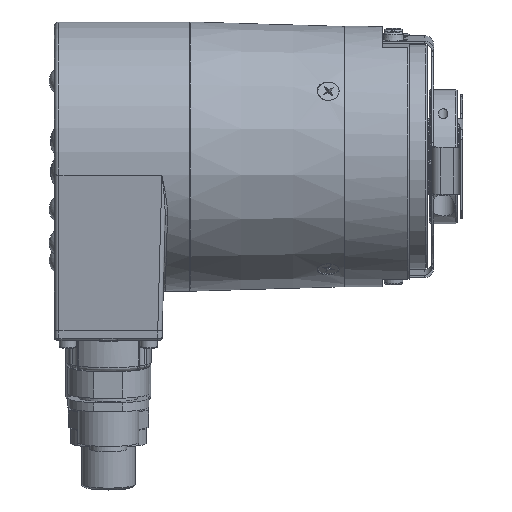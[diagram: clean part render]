
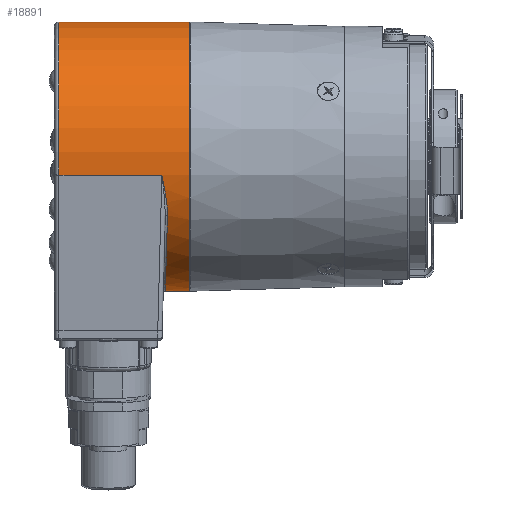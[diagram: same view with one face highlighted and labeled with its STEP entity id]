
A CAD part, top view. The second image highlights one B-rep face of the part: STEP entity #18891.
In plain terms, the highlighted cylindrical face has radius 30 mm (diameter 60 mm), a full revolution.
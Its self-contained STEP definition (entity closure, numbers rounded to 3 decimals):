
#869 = CIRCLE ( 'NONE', #8820, 30. ) ;
#1494 = DIRECTION ( 'NONE',  ( -1., 0., 0. ) ) ;
#1902 =( BOUNDED_CURVE ( )  B_SPLINE_CURVE ( 3, ( #39466, #69482, #63655, #27640 ),
 .UNSPECIFIED., .F., .F. ) 
 B_SPLINE_CURVE_WITH_KNOTS ( ( 4, 4 ),
 ( 5.027, 7.539 ),
 .UNSPECIFIED. ) 
 CURVE ( )  GEOMETRIC_REPRESENTATION_ITEM ( )  RATIONAL_B_SPLINE_CURVE ( ( 1., 0.54, 0.54, 1. ) ) 
 REPRESENTATION_ITEM ( '' )  );
#2298 = EDGE_CURVE ( 'NONE', #26756, #27496, #33368, .T. ) ;
#2488 = ORIENTED_EDGE ( 'NONE', *, *, #2298, .F. ) ;
#5395 = VERTEX_POINT ( 'NONE', #15185 ) ;
#5492 = CARTESIAN_POINT ( 'NONE',  ( -32.48, -7.241, 29.124 ) ) ;
#5623 = AXIS2_PLACEMENT_3D ( 'NONE', #73623, #1494, #37310 ) ;
#6596 = CARTESIAN_POINT ( 'NONE',  ( -31.831, -5.232, -29.54 ) ) ;
#6799 = EDGE_CURVE ( 'NONE', #78070, #27496, #38033, .T. ) ;
#8820 = AXIS2_PLACEMENT_3D ( 'NONE', #10168, #52285, #16221 ) ;
#10168 = CARTESIAN_POINT ( 'NONE',  ( -27., 0., 0. ) ) ;
#11576 = CARTESIAN_POINT ( 'NONE',  ( -32.098, -9.498, 28.468 ) ) ;
#12536 = LINE ( 'NONE', #70319, #44516 ) ;
#12654 = CARTESIAN_POINT ( 'NONE',  ( -31.851, -3.656, -29.787 ) ) ;
#15185 = CARTESIAN_POINT ( 'NONE',  ( -27., -29.708, -4.175 ) ) ;
#15512 = DIRECTION ( 'NONE',  ( -1., 0., 0. ) ) ;
#15622 = ORIENTED_EDGE ( 'NONE', *, *, #75306, .T. ) ;
#16221 = DIRECTION ( 'NONE',  ( 0., -0.99, -0.139 ) ) ;
#16621 = ORIENTED_EDGE ( 'NONE', *, *, #63426, .T. ) ;
#17604 = CARTESIAN_POINT ( 'NONE',  ( -31.851, -11.725, 27.625 ) ) ;
#18685 = CARTESIAN_POINT ( 'NONE',  ( -32.098, -1.283, -29.983 ) ) ;
#18891 = ADVANCED_FACE ( 'NONE', ( #47335, #63341 ), #45436, .T. ) ;
#20054 = CARTESIAN_POINT ( 'NONE',  ( -56., 0., 0. ) ) ;
#20380 = EDGE_CURVE ( 'NONE', #26756, #74362, #29959, .T. ) ;
#22516 = AXIS2_PLACEMENT_3D ( 'NONE', #20054, #62184, #26117 ) ;
#23689 = CARTESIAN_POINT ( 'NONE',  ( -31.831, -13.172, 26.954 ) ) ;
#24793 = CARTESIAN_POINT ( 'NONE',  ( -32.479, 1.067, -29.991 ) ) ;
#26117 = DIRECTION ( 'NONE',  ( 0., -0.99, -0.139 ) ) ;
#26756 = VERTEX_POINT ( 'NONE', #66758 ) ;
#27496 = VERTEX_POINT ( 'NONE', #65811 ) ;
#27640 = CARTESIAN_POINT ( 'NONE',  ( -31.831, -5.232, -29.54 ) ) ;
#29011 = ORIENTED_EDGE ( 'NONE', *, *, #20380, .T. ) ;
#29360 = VERTEX_POINT ( 'NONE', #77482 ) ;
#29502 = CARTESIAN_POINT ( 'NONE',  ( -32.928, -4.948, 29.592 ) ) ;
#29959 = B_SPLINE_CURVE_WITH_KNOTS ( 'NONE', 3,
 ( #35525, #34989, #29502, #77607, #41554, #5492, #47588, #11576, #53689, #17604, #59742, #23689 ),
 .UNSPECIFIED., .F., .F.,
 ( 4, 2, 2, 2, 2, 4 ),
 ( 0., 0.001, 0.002, 0.005, 0.007, 0.009 ),
 .UNSPECIFIED. ) ;
#30837 = CARTESIAN_POINT ( 'NONE',  ( -32.928, 3.401, -29.817 ) ) ;
#33368 = LINE ( 'NONE', #51560, #65395 ) ;
#34989 = CARTESIAN_POINT ( 'NONE',  ( -33.006, -4.56, 29.654 ) ) ;
#35525 = CARTESIAN_POINT ( 'NONE',  ( -33.084, -4.175, 29.708 ) ) ;
#37310 = DIRECTION ( 'NONE',  ( 0., 0.99, 0.139 ) ) ;
#38033 = CIRCLE ( 'NONE', #22516, 30. ) ;
#39466 = CARTESIAN_POINT ( 'NONE',  ( -31.831, -13.172, 26.954 ) ) ;
#41554 = CARTESIAN_POINT ( 'NONE',  ( -32.7, -6.098, 29.376 ) ) ;
#42633 = ORIENTED_EDGE ( 'NONE', *, *, #50146, .F. ) ;
#43291 = EDGE_LOOP ( 'NONE', ( #42633 ) ) ;
#44516 = VECTOR ( 'NONE', #76317, 1000. ) ;
#45436 = CYLINDRICAL_SURFACE ( 'NONE', #5623, 30. ) ;
#46162 = CARTESIAN_POINT ( 'NONE',  ( -56., 4.175, -29.708 ) ) ;
#47335 = FACE_OUTER_BOUND ( 'NONE', #48759, .T. ) ;
#47588 = CARTESIAN_POINT ( 'NONE',  ( -32.341, -7.996, 28.925 ) ) ;
#47606 = CARTESIAN_POINT ( 'NONE',  ( -31.831, -13.172, 26.954 ) ) ;
#48684 = CARTESIAN_POINT ( 'NONE',  ( -31.81, -4.445, -29.68 ) ) ;
#48688 = B_SPLINE_CURVE_WITH_KNOTS ( 'NONE', 3,
 ( #6596, #48684, #12654, #54774, #18685, #60839, #24793, #66847, #30837, #72956 ),
 .UNSPECIFIED., .F., .F.,
 ( 4, 2, 2, 2, 4 ),
 ( 0., 0.002, 0.005, 0.007, 0.01 ),
 .UNSPECIFIED. ) ;
#48759 = EDGE_LOOP ( 'NONE', ( #2488, #29011, #68645, #15622, #16621, #60169 ) ) ;
#50146 = EDGE_CURVE ( 'NONE', #5395, #5395, #869, .T. ) ;
#51560 = CARTESIAN_POINT ( 'NONE',  ( -33., -4.175, 29.708 ) ) ;
#52285 = DIRECTION ( 'NONE',  ( 1., 0., 0. ) ) ;
#53689 = CARTESIAN_POINT ( 'NONE',  ( -31.994, -10.246, 28.207 ) ) ;
#54774 = CARTESIAN_POINT ( 'NONE',  ( -31.994, -2.074, -29.939 ) ) ;
#56820 = CARTESIAN_POINT ( 'NONE',  ( -31.831, -5.232, -29.54 ) ) ;
#59742 = CARTESIAN_POINT ( 'NONE',  ( -31.81, -12.453, 27.305 ) ) ;
#60169 = ORIENTED_EDGE ( 'NONE', *, *, #6799, .T. ) ;
#60839 = CARTESIAN_POINT ( 'NONE',  ( -32.341, 0.286, -30.009 ) ) ;
#62184 = DIRECTION ( 'NONE',  ( 1., 0., 0. ) ) ;
#63341 = FACE_OUTER_BOUND ( 'NONE', #43291, .T. ) ;
#63426 = EDGE_CURVE ( 'NONE', #29360, #78070, #12536, .T. ) ;
#63655 = CARTESIAN_POINT ( 'NONE',  ( -32.722, -39.919, -23.397 ) ) ;
#65395 = VECTOR ( 'NONE', #15512, 1000. ) ;
#65811 = CARTESIAN_POINT ( 'NONE',  ( -56., -4.175, 29.708 ) ) ;
#66758 = CARTESIAN_POINT ( 'NONE',  ( -33.084, -4.175, 29.708 ) ) ;
#66847 = CARTESIAN_POINT ( 'NONE',  ( -32.773, 2.624, -29.895 ) ) ;
#68645 = ORIENTED_EDGE ( 'NONE', *, *, #76614, .T. ) ;
#69482 = CARTESIAN_POINT ( 'NONE',  ( -32.722, -44.821, 11.487 ) ) ;
#70319 = CARTESIAN_POINT ( 'NONE',  ( -33., 4.175, -29.708 ) ) ;
#72956 = CARTESIAN_POINT ( 'NONE',  ( -33.084, 4.175, -29.708 ) ) ;
#73623 = CARTESIAN_POINT ( 'NONE',  ( -27., 0., 0. ) ) ;
#74362 = VERTEX_POINT ( 'NONE', #47606 ) ;
#75306 = EDGE_CURVE ( 'NONE', #75461, #29360, #48688, .T. ) ;
#75461 = VERTEX_POINT ( 'NONE', #56820 ) ;
#76317 = DIRECTION ( 'NONE',  ( -1., 0., 0. ) ) ;
#76614 = EDGE_CURVE ( 'NONE', #74362, #75461, #1902, .T. ) ;
#77482 = CARTESIAN_POINT ( 'NONE',  ( -33.084, 4.175, -29.708 ) ) ;
#77607 = CARTESIAN_POINT ( 'NONE',  ( -32.775, -5.716, 29.453 ) ) ;
#78070 = VERTEX_POINT ( 'NONE', #46162 ) ;
